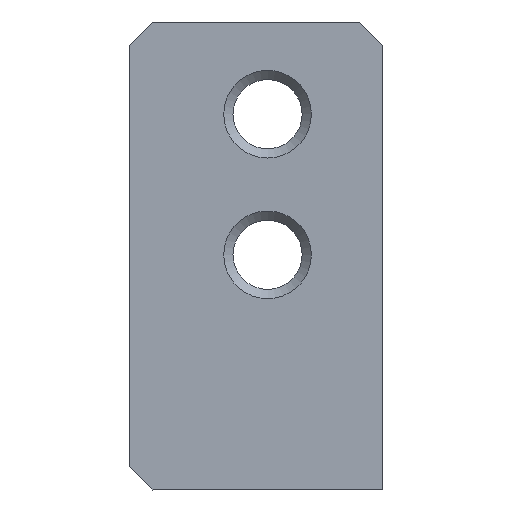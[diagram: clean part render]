
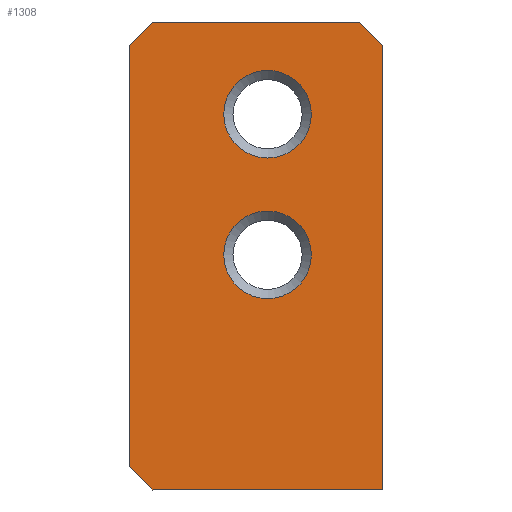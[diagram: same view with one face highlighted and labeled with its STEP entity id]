
A CAD part, front view. The second image highlights one B-rep face of the part: STEP entity #1308.
In plain terms, the highlighted planar face has unit normal (0, -1, 0).
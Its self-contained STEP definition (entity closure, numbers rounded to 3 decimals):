
#26=FACE_BOUND('',#125,.T.);
#27=FACE_BOUND('',#126,.T.);
#30=CIRCLE('',#1382,1.9);
#31=CIRCLE('',#1383,1.9);
#53=FACE_OUTER_BOUND('',#124,.T.);
#124=EDGE_LOOP('',(#871,#872,#873,#874,#875,#876,#877));
#125=EDGE_LOOP('',(#878));
#126=EDGE_LOOP('',(#879));
#207=LINE('',#1853,#380);
#208=LINE('',#1855,#381);
#209=LINE('',#1857,#382);
#210=LINE('',#1859,#383);
#211=LINE('',#1861,#384);
#212=LINE('',#1863,#385);
#213=LINE('',#1864,#386);
#380=VECTOR('',#1490,10.);
#381=VECTOR('',#1491,10.);
#382=VECTOR('',#1492,10.);
#383=VECTOR('',#1493,10.);
#384=VECTOR('',#1494,10.);
#385=VECTOR('',#1495,10.);
#386=VECTOR('',#1496,10.);
#551=VERTEX_POINT('',#1851);
#552=VERTEX_POINT('',#1852);
#553=VERTEX_POINT('',#1854);
#554=VERTEX_POINT('',#1856);
#555=VERTEX_POINT('',#1858);
#556=VERTEX_POINT('',#1860);
#557=VERTEX_POINT('',#1862);
#558=VERTEX_POINT('',#1865);
#559=VERTEX_POINT('',#1867);
#677=EDGE_CURVE('',#551,#552,#207,.T.);
#678=EDGE_CURVE('',#551,#553,#208,.F.);
#679=EDGE_CURVE('',#553,#554,#209,.F.);
#680=EDGE_CURVE('',#554,#555,#210,.F.);
#681=EDGE_CURVE('',#555,#556,#211,.F.);
#682=EDGE_CURVE('',#556,#557,#212,.F.);
#683=EDGE_CURVE('',#557,#552,#213,.F.);
#684=EDGE_CURVE('',#558,#558,#30,.T.);
#685=EDGE_CURVE('',#559,#559,#31,.T.);
#871=ORIENTED_EDGE('',*,*,#677,.F.);
#872=ORIENTED_EDGE('',*,*,#678,.T.);
#873=ORIENTED_EDGE('',*,*,#679,.T.);
#874=ORIENTED_EDGE('',*,*,#680,.T.);
#875=ORIENTED_EDGE('',*,*,#681,.T.);
#876=ORIENTED_EDGE('',*,*,#682,.T.);
#877=ORIENTED_EDGE('',*,*,#683,.T.);
#878=ORIENTED_EDGE('',*,*,#684,.F.);
#879=ORIENTED_EDGE('',*,*,#685,.F.);
#1248=PLANE('',#1381);
#1308=ADVANCED_FACE('',(#53,#26,#27),#1248,.F.);
#1381=AXIS2_PLACEMENT_3D('',#1850,#1488,#1489);
#1382=AXIS2_PLACEMENT_3D('',#1866,#1497,#1498);
#1383=AXIS2_PLACEMENT_3D('',#1868,#1499,#1500);
#1488=DIRECTION('center_axis',(0.,1.,0.));
#1489=DIRECTION('ref_axis',(0.,0.,1.));
#1490=DIRECTION('',(0.,0.,-1.));
#1491=DIRECTION('',(0.707,0.,-0.707));
#1492=DIRECTION('',(1.,0.,0.));
#1493=DIRECTION('',(0.707,0.,0.707));
#1494=DIRECTION('',(0.,0.,1.));
#1495=DIRECTION('',(-0.707,0.,0.707));
#1496=DIRECTION('',(-1.,0.,0.));
#1497=DIRECTION('center_axis',(0.,-1.,0.));
#1498=DIRECTION('ref_axis',(-1.,0.,0.));
#1499=DIRECTION('center_axis',(0.,-1.,0.));
#1500=DIRECTION('ref_axis',(-1.,0.,0.));
#1850=CARTESIAN_POINT('Origin',(51.444,-26.718,7.888));
#1851=CARTESIAN_POINT('',(57.368,-26.718,19.888));
#1852=CARTESIAN_POINT('',(57.368,-26.718,0.588));
#1853=CARTESIAN_POINT('',(57.368,-26.718,4.238));
#1854=CARTESIAN_POINT('',(56.368,-26.718,20.888));
#1855=CARTESIAN_POINT('',(58.887,-26.718,18.369));
#1856=CARTESIAN_POINT('',(47.368,-26.718,20.888));
#1857=CARTESIAN_POINT('',(53.906,-26.718,20.888));
#1858=CARTESIAN_POINT('',(46.368,-26.718,19.888));
#1859=CARTESIAN_POINT('',(45.137,-26.718,18.657));
#1860=CARTESIAN_POINT('',(46.368,-26.718,1.588));
#1861=CARTESIAN_POINT('',(46.368,-26.718,13.888));
#1862=CARTESIAN_POINT('',(47.368,-26.718,0.588));
#1863=CARTESIAN_POINT('',(46.062,-26.718,1.894));
#1864=CARTESIAN_POINT('',(49.406,-26.718,0.588));
#1865=CARTESIAN_POINT('',(54.268,-26.718,10.788));
#1866=CARTESIAN_POINT('Origin',(52.368,-26.718,10.788));
#1867=CARTESIAN_POINT('',(54.268,-26.718,16.888));
#1868=CARTESIAN_POINT('Origin',(52.368,-26.718,16.888));
